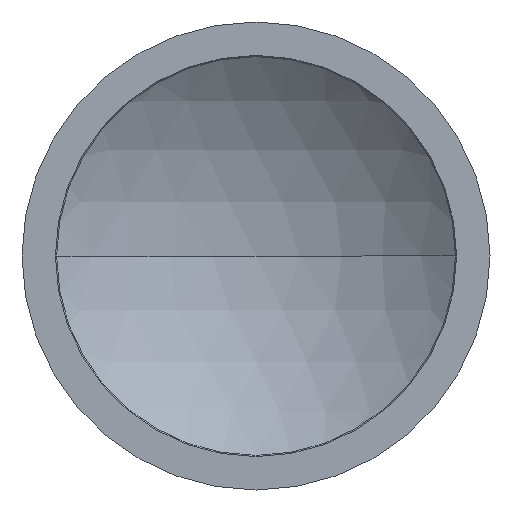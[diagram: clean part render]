
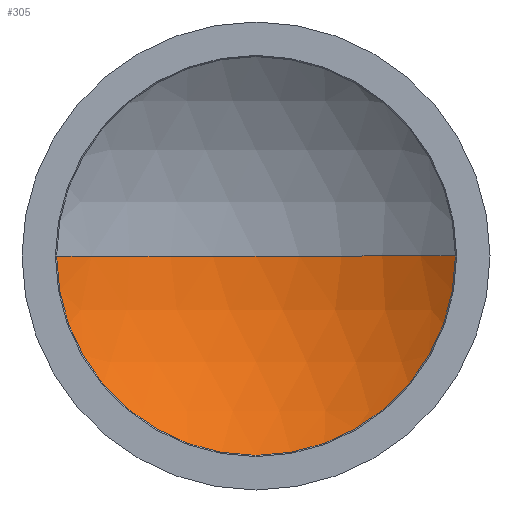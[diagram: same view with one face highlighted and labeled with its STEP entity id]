
A CAD part, front view. The second image highlights one B-rep face of the part: STEP entity #305.
In plain terms, the highlighted spherical face has radius 18.4 mm.
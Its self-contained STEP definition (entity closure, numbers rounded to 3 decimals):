
#11 = CARTESIAN_POINT ( 'NONE',  ( 0., -13.4, 0. ) ) ;
#16 = DIRECTION ( 'NONE',  ( 0., 0., 1. ) ) ;
#23 = CARTESIAN_POINT ( 'NONE',  ( 0., -13.4, 0. ) ) ;
#25 = EDGE_CURVE ( 'NONE', #131, #183, #307, .T. ) ;
#27 = ORIENTED_EDGE ( 'NONE', *, *, #403, .T. ) ;
#59 = DIRECTION ( 'NONE',  ( 1., 0., 0. ) ) ;
#82 = SPHERICAL_SURFACE ( 'NONE', #181, 18.4 ) ;
#100 = CARTESIAN_POINT ( 'NONE',  ( 0., 0.609, 0. ) ) ;
#114 = FACE_OUTER_BOUND ( 'NONE', #196, .T. ) ;
#125 = DIRECTION ( 'NONE',  ( 0., 0., -1. ) ) ;
#131 = VERTEX_POINT ( 'NONE', #235 ) ;
#151 = CARTESIAN_POINT ( 'NONE',  ( 0., 5., 0. ) ) ;
#165 = CIRCLE ( 'NONE', #203, 18.4 ) ;
#181 = AXIS2_PLACEMENT_3D ( 'NONE', #398, #16, #338 ) ;
#183 = VERTEX_POINT ( 'NONE', #333 ) ;
#196 = EDGE_LOOP ( 'NONE', ( #229, #27, #290 ) ) ;
#203 = AXIS2_PLACEMENT_3D ( 'NONE', #23, #349, #59 ) ;
#229 = ORIENTED_EDGE ( 'NONE', *, *, #25, .F. ) ;
#230 = CIRCLE ( 'NONE', #278, 18.4 ) ;
#235 = CARTESIAN_POINT ( 'NONE',  ( 11.93, 0.609, 0. ) ) ;
#278 = AXIS2_PLACEMENT_3D ( 'NONE', #11, #125, #410 ) ;
#280 = DIRECTION ( 'NONE',  ( 0., 1., 0. ) ) ;
#290 = ORIENTED_EDGE ( 'NONE', *, *, #374, .F. ) ;
#300 = AXIS2_PLACEMENT_3D ( 'NONE', #100, #280, #356 ) ;
#305 = ADVANCED_FACE ( 'NONE', ( #114 ), #82, .F. ) ;
#306 = VERTEX_POINT ( 'NONE', #151 ) ;
#307 = CIRCLE ( 'NONE', #300, 11.93 ) ;
#333 = CARTESIAN_POINT ( 'NONE',  ( -11.93, 0.609, 0. ) ) ;
#338 = DIRECTION ( 'NONE',  ( -1., 0., 0. ) ) ;
#349 = DIRECTION ( 'NONE',  ( 0., 0., 1. ) ) ;
#356 = DIRECTION ( 'NONE',  ( -1., 0., 0. ) ) ;
#374 = EDGE_CURVE ( 'NONE', #183, #306, #230, .T. ) ;
#398 = CARTESIAN_POINT ( 'NONE',  ( 0., -13.4, 0. ) ) ;
#403 = EDGE_CURVE ( 'NONE', #131, #306, #165, .T. ) ;
#410 = DIRECTION ( 'NONE',  ( -1., 0., 0. ) ) ;
